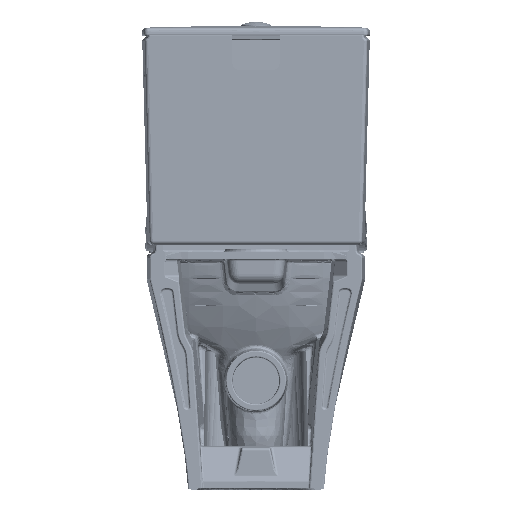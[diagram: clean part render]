
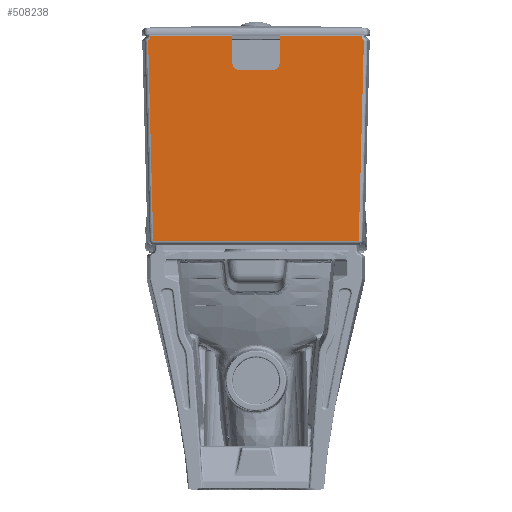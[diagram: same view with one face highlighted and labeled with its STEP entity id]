
A CAD part, left-side view. The second image highlights one B-rep face of the part: STEP entity #508238.
In plain terms, the highlighted planar face has unit normal (-1, 0, 0).
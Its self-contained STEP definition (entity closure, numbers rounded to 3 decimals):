
#507822=CARTESIAN_POINT('',(0.,174.027,19.));
#507823=VERTEX_POINT('',#507822);
#507824=CARTESIAN_POINT('',(0.,182.679,358.009));
#507825=VERTEX_POINT('',#507824);
#507826=CARTESIAN_POINT('',(0.,174.027,19.));
#507827=CARTESIAN_POINT('',(0.,175.758,86.802));
#507828=CARTESIAN_POINT('',(0.,177.488,154.604));
#507829=CARTESIAN_POINT('',(0.,179.218,222.405));
#507830=CARTESIAN_POINT('',(0.,180.949,290.207));
#507831=CARTESIAN_POINT('',(0.,182.679,358.009));
#507832=B_SPLINE_CURVE_WITH_KNOTS('',5,(#507826,#507827,#507828,#507829,#507830,#507831),.UNSPECIFIED.,.F.,.U.,(6,6),(131.193,470.313),.UNSPECIFIED.);
#507833=EDGE_CURVE('',#507823,#507825,#507832,.T.);
#508121=CARTESIAN_POINT('',(0.0,0.0,15.0));
#508122=DIRECTION('',(-1.0,0.0,0.0));
#508123=DIRECTION('',(0.0,0.0,1.0));
#508124=AXIS2_PLACEMENT_3D('',#508121,#508122,#508123);
#508125=PLANE('',#508124);
#508126=CARTESIAN_POINT('',(0.0,-40.0,320.0));
#508127=VERTEX_POINT('',#508126);
#508128=CARTESIAN_POINT('',(0.0,-28.,308.0));
#508129=VERTEX_POINT('',#508128);
#508130=CARTESIAN_POINT('',(0.0,-28.,320.0));
#508131=DIRECTION('',(-1.0,0.0,0.0));
#508132=DIRECTION('',(0.0,1.0,0.0));
#508133=AXIS2_PLACEMENT_3D('',#508130,#508131,#508132);
#508134=CIRCLE('',#508133,12.);
#508135=EDGE_CURVE('',#508127,#508129,#508134,.F.);
#508136=ORIENTED_EDGE('',*,*,#508135,.T.);
#508137=CARTESIAN_POINT('',(0.0,28.,308.0));
#508138=VERTEX_POINT('',#508137);
#508139=CARTESIAN_POINT('',(0.0,-28.,308.0));
#508140=DIRECTION('',(0.0,1.0,0.0));
#508141=VECTOR('',#508140,56.);
#508142=LINE('',#508139,#508141);
#508143=EDGE_CURVE('',#508129,#508138,#508142,.T.);
#508144=ORIENTED_EDGE('',*,*,#508143,.T.);
#508145=CARTESIAN_POINT('',(0.0,40.0,320.0));
#508146=VERTEX_POINT('',#508145);
#508147=CARTESIAN_POINT('',(0.0,28.,320.));
#508148=DIRECTION('',(1.0,0.0,0.0));
#508149=DIRECTION('',(0.0,1.0,0.0));
#508150=AXIS2_PLACEMENT_3D('',#508147,#508148,#508149);
#508151=CIRCLE('',#508150,12.);
#508152=EDGE_CURVE('',#508138,#508146,#508151,.T.);
#508153=ORIENTED_EDGE('',*,*,#508152,.T.);
#508154=CARTESIAN_POINT('',(0.0,40.0,366.));
#508155=VERTEX_POINT('',#508154);
#508156=CARTESIAN_POINT('',(0.0,40.0,320.0));
#508157=DIRECTION('',(0.0,0.0,1.0));
#508158=VECTOR('',#508157,46.);
#508159=LINE('',#508156,#508158);
#508160=EDGE_CURVE('',#508146,#508155,#508159,.T.);
#508161=ORIENTED_EDGE('',*,*,#508160,.T.);
#508162=CARTESIAN_POINT('',(0.,178.681,366.));
#508163=VERTEX_POINT('',#508162);
#508164=CARTESIAN_POINT('',(0.0,178.681,366.));
#508165=DIRECTION('',(0.0,-1.0,0.0));
#508166=VECTOR('',#508165,138.681);
#508167=LINE('',#508164,#508166);
#508168=EDGE_CURVE('',#508155,#508163,#508167,.F.);
#508169=ORIENTED_EDGE('',*,*,#508168,.T.);
#508170=CARTESIAN_POINT('',(0.0,178.841,364.475));
#508171=VERTEX_POINT('',#508170);
#508172=CARTESIAN_POINT('',(0.0,178.681,366.));
#508173=DIRECTION('',(0.0,0.105,-0.995));
#508174=VECTOR('',#508173,1.534);
#508175=LINE('',#508172,#508174);
#508176=EDGE_CURVE('',#508163,#508171,#508175,.T.);
#508177=ORIENTED_EDGE('',*,*,#508176,.T.);
#508178=CARTESIAN_POINT('',(0.,187.767,365.399));
#508179=DIRECTION('',(1.0,0.,0.));
#508180=DIRECTION('',(0.,-0.581,0.814));
#508181=AXIS2_PLACEMENT_3D('',#508178,#508179,#508180);
#508182=ELLIPSE('',#508181,8.986,8.97);
#508183=EDGE_CURVE('',#508171,#507825,#508182,.T.);
#508184=ORIENTED_EDGE('',*,*,#508183,.T.);
#508185=ORIENTED_EDGE('',*,*,#507833,.F.);
#508186=CARTESIAN_POINT('',(0.,-174.027,19.));
#508187=VERTEX_POINT('',#508186);
#508188=CARTESIAN_POINT('',(0.0,174.027,19.));
#508189=DIRECTION('',(0.0,-1.0,0.));
#508190=VECTOR('',#508189,348.055);
#508191=LINE('',#508188,#508190);
#508192=EDGE_CURVE('',#507823,#508187,#508191,.T.);
#508193=ORIENTED_EDGE('',*,*,#508192,.T.);
#508194=CARTESIAN_POINT('',(0.0,-182.679,358.009));
#508195=VERTEX_POINT('',#508194);
#508196=CARTESIAN_POINT('',(0.0,-174.027,19.0));
#508197=CARTESIAN_POINT('',(0.0,-175.758,86.802));
#508198=CARTESIAN_POINT('',(0.0,-177.488,154.604));
#508199=CARTESIAN_POINT('',(0.0,-179.218,222.406));
#508200=CARTESIAN_POINT('',(0.0,-180.949,290.207));
#508201=CARTESIAN_POINT('',(0.0,-182.679,358.009));
#508202=B_SPLINE_CURVE_WITH_KNOTS('',5,(#508196,#508197,#508198,#508199,#508200,#508201),.UNSPECIFIED.,.F.,.U.,(6,6),(0.0,479.588),.UNSPECIFIED.);
#508203=EDGE_CURVE('',#508187,#508195,#508202,.T.);
#508204=ORIENTED_EDGE('',*,*,#508203,.T.);
#508205=CARTESIAN_POINT('',(0.,-178.841,364.475));
#508206=VERTEX_POINT('',#508205);
#508207=CARTESIAN_POINT('',(0.,-187.767,365.399));
#508208=DIRECTION('',(-1.0,0.,0.));
#508209=DIRECTION('',(0.,-0.581,-0.814));
#508210=AXIS2_PLACEMENT_3D('',#508207,#508208,#508209);
#508211=ELLIPSE('',#508210,8.986,8.97);
#508212=EDGE_CURVE('',#508206,#508195,#508211,.T.);
#508213=ORIENTED_EDGE('',*,*,#508212,.F.);
#508214=CARTESIAN_POINT('',(0.,-178.681,366.));
#508215=VERTEX_POINT('',#508214);
#508216=CARTESIAN_POINT('',(0.0,-178.841,364.475));
#508217=DIRECTION('',(0.0,0.105,0.995));
#508218=VECTOR('',#508217,1.534);
#508219=LINE('',#508216,#508218);
#508220=EDGE_CURVE('',#508215,#508206,#508219,.F.);
#508221=ORIENTED_EDGE('',*,*,#508220,.F.);
#508222=CARTESIAN_POINT('',(0.0,-40.0,366.0));
#508223=VERTEX_POINT('',#508222);
#508224=CARTESIAN_POINT('',(0.0,-40.0,366.));
#508225=DIRECTION('',(0.0,-1.0,0.));
#508226=VECTOR('',#508225,138.681);
#508227=LINE('',#508224,#508226);
#508228=EDGE_CURVE('',#508223,#508215,#508227,.T.);
#508229=ORIENTED_EDGE('',*,*,#508228,.F.);
#508230=CARTESIAN_POINT('',(0.0,-40.0,320.0));
#508231=DIRECTION('',(0.0,0.0,1.0));
#508232=VECTOR('',#508231,46.0);
#508233=LINE('',#508230,#508232);
#508234=EDGE_CURVE('',#508127,#508223,#508233,.T.);
#508235=ORIENTED_EDGE('',*,*,#508234,.F.);
#508236=EDGE_LOOP('',(#508136,#508144,#508153,#508161,#508169,#508177,#508184,#508185,#508193,#508204,#508213,#508221,#508229,#508235));
#508237=FACE_OUTER_BOUND('',#508236,.T.);
#508238=ADVANCED_FACE('',(#508237),#508125,.T.);
